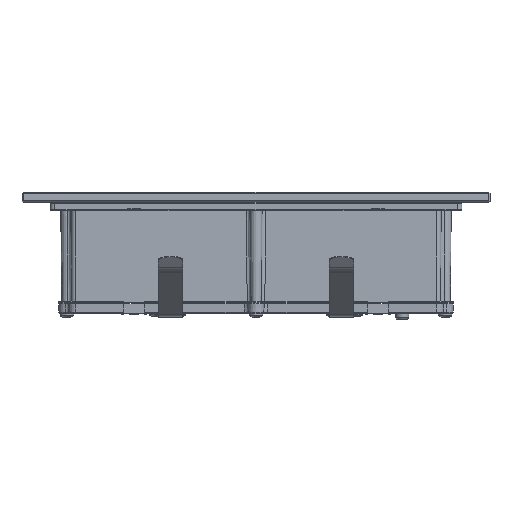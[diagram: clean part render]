
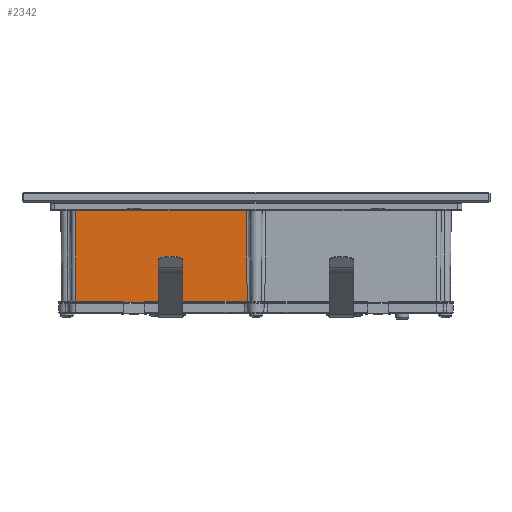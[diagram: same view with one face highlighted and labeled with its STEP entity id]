
A CAD part, top view. The second image highlights one B-rep face of the part: STEP entity #2342.
In plain terms, the highlighted planar face has unit normal (0, -0.009, 1).
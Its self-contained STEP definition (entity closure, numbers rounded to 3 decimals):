
#567=DIRECTION('',(0.,-1.,-0.009));
#568=VECTOR('',#567,37.704);
#569=CARTESIAN_POINT('',(-74.,10.203,22.476));
#570=LINE('',#569,#568);
#571=DIRECTION('',(1.,0.,0.));
#572=VECTOR('',#571,70.026);
#573=CARTESIAN_POINT('',(-74.,10.203,22.476));
#574=LINE('',#573,#572);
#575=CARTESIAN_POINT('',(-3.974,10.203,22.476));
#576=CARTESIAN_POINT('',(-3.948,7.377,22.451));
#577=CARTESIAN_POINT('',(-3.896,1.6,22.401));
#578=CARTESIAN_POINT('',(-3.813,-7.324,22.323));
#579=CARTESIAN_POINT('',(-3.723,-16.87,22.239));
#580=CARTESIAN_POINT('',(-3.655,-23.864,22.178));
#581=CARTESIAN_POINT('',(-3.619,-27.5,22.147));
#583=DIRECTION('',(-1.,0.,0.));
#584=VECTOR('',#583,70.381);
#585=CARTESIAN_POINT('',(-3.619,-27.5,22.147));
#586=LINE('',#585,#584);
#1935=CARTESIAN_POINT('',(-74.,-27.5,22.147));
#1937=VERTEX_POINT('',#1935);
#2085=CARTESIAN_POINT('',(-74.,10.203,22.476));
#2086=VERTEX_POINT('',#2085);
#2149=CARTESIAN_POINT('',(-3.619,-27.5,
22.147));
#2150=VERTEX_POINT('',#2149);
#2171=CARTESIAN_POINT('',(-3.974,10.203,22.476));
#2172=VERTEX_POINT('',#2171);
#2327=CARTESIAN_POINT('',(-77.12,13.,22.5));
#2328=DIRECTION('',(0.,-0.009,1.));
#2329=DIRECTION('',(1.,0.,0.));
#2330=AXIS2_PLACEMENT_3D('',#2327,#2328,#2329);
#2331=PLANE('',#2330);
#2333=ORIENTED_EDGE('',*,*,#2332,.F.);
#2335=ORIENTED_EDGE('',*,*,#2334,.T.);
#2337=ORIENTED_EDGE('',*,*,#2336,.T.);
#2339=ORIENTED_EDGE('',*,*,#2338,.T.);
#2340=EDGE_LOOP('',(#2333,#2335,#2337,#2339));
#2341=FACE_OUTER_BOUND('',#2340,.F.);
#2342=ADVANCED_FACE('',(#2341),#2331,.T.);
#582=B_SPLINE_CURVE_WITH_KNOTS('',3,(#575,#576,#577,#578,#579,#580,#581),
.UNSPECIFIED.,.F.,.F.,(4,1,1,1,4),(0.,0.25,0.5,0.75,1.),
.UNSPECIFIED.);
#2332=EDGE_CURVE('',#2086,#1937,#570,.T.);
#2334=EDGE_CURVE('',#2086,#2172,#574,.T.);
#2336=EDGE_CURVE('',#2172,#2150,#582,.T.);
#2338=EDGE_CURVE('',#2150,#1937,#586,.T.);
